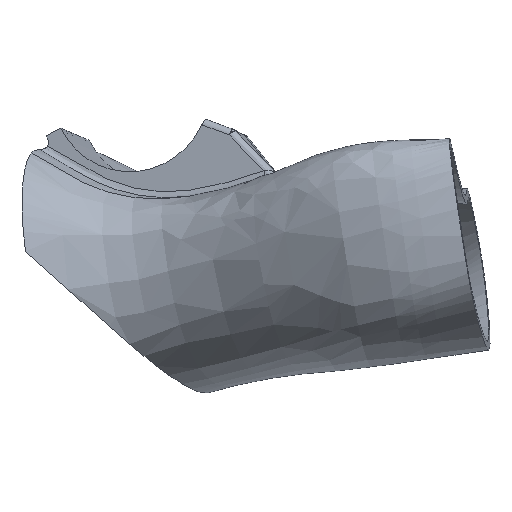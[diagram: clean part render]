
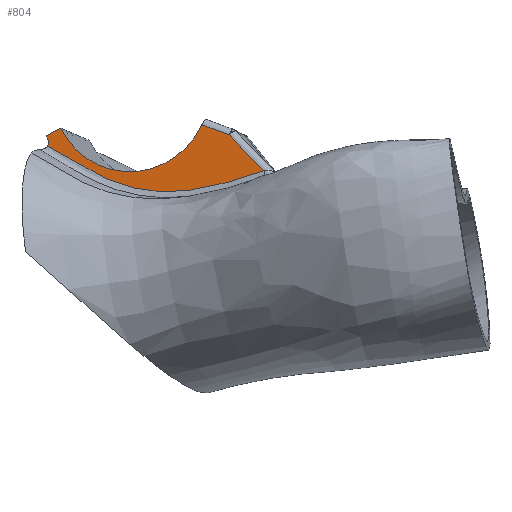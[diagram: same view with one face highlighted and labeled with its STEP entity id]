
A CAD part, top view. The second image highlights one B-rep face of the part: STEP entity #804.
In plain terms, the highlighted planar face has unit normal (-0.241, 0.103, 0.965).
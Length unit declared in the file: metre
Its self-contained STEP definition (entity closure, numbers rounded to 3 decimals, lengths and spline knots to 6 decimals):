
#26=CIRCLE('',#857,0.024);
#28=CIRCLE('',#861,0.029);
#45=LINE('',#2890,#93);
#71=LINE('',#4711,#119);
#93=VECTOR('',#898,1.);
#119=VECTOR('',#946,1.);
#142=PLANE('',#862);
#255=ORIENTED_EDGE('',*,*,#488,.T.);
#256=ORIENTED_EDGE('',*,*,#489,.T.);
#257=ORIENTED_EDGE('',*,*,#466,.F.);
#258=ORIENTED_EDGE('',*,*,#437,.T.);
#259=ORIENTED_EDGE('',*,*,#487,.F.);
#260=ORIENTED_EDGE('',*,*,#490,.T.);
#261=ORIENTED_EDGE('',*,*,#491,.T.);
#437=EDGE_CURVE('',#564,#563,#45,.T.);
#466=EDGE_CURVE('',#564,#588,#26,.T.);
#487=EDGE_CURVE('',#602,#563,#28,.T.);
#488=EDGE_CURVE('',#603,#604,#661,.T.);
#489=EDGE_CURVE('',#604,#588,#71,.F.);
#490=EDGE_CURVE('',#602,#605,#662,.T.);
#491=EDGE_CURVE('',#605,#603,#663,.T.);
#563=VERTEX_POINT('',#2889);
#564=VERTEX_POINT('',#2891);
#588=VERTEX_POINT('',#4641);
#602=VERTEX_POINT('',#4702);
#603=VERTEX_POINT('',#4709);
#604=VERTEX_POINT('',#4710);
#605=VERTEX_POINT('',#4716);
#661=B_SPLINE_CURVE_WITH_KNOTS('',3,(#4705,#4706,#4707,#4708),
 .UNSPECIFIED.,.F.,.F.,(4,4),(0.,0.015277),
 .UNSPECIFIED.);
#662=B_SPLINE_CURVE_WITH_KNOTS('',3,(#4712,#4713,#4714,#4715),
 .UNSPECIFIED.,.F.,.F.,(4,4),(0.,0.002161),.UNSPECIFIED.);
#663=B_SPLINE_CURVE_WITH_KNOTS('',3,(#4717,#4718,#4719,#4720,#4721,#4722,
#4723,#4724,#4725,#4726,#4727,#4728),.UNSPECIFIED.,.F.,.F.,(4,1,1,1,1,1,
1,1,1,4),(-0.00274,0.006002,0.014744,0.019114,
0.023485,0.032227,0.040969,0.04971,
0.058452,0.067193),.UNSPECIFIED.);
#704=EDGE_LOOP('',(#255,#256,#257,#258,#259,#260,#261));
#756=FACE_BOUND('',#704,.T.);
#804=ADVANCED_FACE('',(#756),#142,.F.);
#857=AXIS2_PLACEMENT_3D('',#4640,#919,#920);
#861=AXIS2_PLACEMENT_3D('',#4703,#942,#943);
#862=AXIS2_PLACEMENT_3D('',#4704,#944,#945);
#898=DIRECTION('',(-0.875,-0.453,-0.171));
#919=DIRECTION('',(-0.241,0.103,0.965));
#920=DIRECTION('',(0.97,0.,0.243));
#942=DIRECTION('',(0.241,-0.103,-0.965));
#943=DIRECTION('',(-0.97,0.,-0.243));
#944=DIRECTION('',(0.241,-0.103,-0.965));
#945=DIRECTION('',(0.97,0.026,0.24));
#946=DIRECTION('',(0.904,-0.338,0.262));
#2889=CARTESIAN_POINT('',(0.099856,-0.126,0.18507));
#2890=CARTESIAN_POINT('',(0.102043,-0.124867,0.185496));
#2891=CARTESIAN_POINT('',(0.104231,-0.123734,0.185923));
#4640=CARTESIAN_POINT('',(0.125229,-0.112857,0.190015));
#4641=CARTESIAN_POINT('',(0.146148,-0.122801,0.196303));
#4702=CARTESIAN_POINT('',(0.100391,-0.12707,0.185318));
#4703=CARTESIAN_POINT('',(0.125229,-0.112857,0.190015));
#4704=CARTESIAN_POINT('',(0.12548,-0.115378,0.190346));
#4705=CARTESIAN_POINT('',(0.164526,-0.136456,0.20235));
#4706=CARTESIAN_POINT('',(0.161093,-0.132902,0.201114));
#4707=CARTESIAN_POINT('',(0.157655,-0.129355,0.199877));
#4708=CARTESIAN_POINT('',(0.154214,-0.125812,0.198639));
#4709=CARTESIAN_POINT('',(0.164526,-0.136456,0.20235));
#4710=CARTESIAN_POINT('',(0.154214,-0.125812,0.198639));
#4711=CARTESIAN_POINT('',(0.146223,-0.122829,0.196324));
#4712=CARTESIAN_POINT('',(0.100391,-0.12707,0.185318));
#4713=CARTESIAN_POINT('',(0.100725,-0.127702,0.185468));
#4714=CARTESIAN_POINT('',(0.100683,-0.128514,0.185544));
#4715=CARTESIAN_POINT('',(0.100285,-0.129126,0.18551));
#4716=CARTESIAN_POINT('',(0.100285,-0.129126,0.18551));
#4717=CARTESIAN_POINT('',(0.100285,-0.129126,0.18551));
#4718=CARTESIAN_POINT('',(0.102687,-0.130609,0.186268));
#4719=CARTESIAN_POINT('',(0.107485,-0.133584,0.187784));
#4720=CARTESIAN_POINT('',(0.113633,-0.137011,0.189686));
#4721=CARTESIAN_POINT('',(0.118755,-0.139336,0.191214));
#4722=CARTESIAN_POINT('',(0.124114,-0.141246,0.192757));
#4723=CARTESIAN_POINT('',(0.131062,-0.142677,0.194646));
#4724=CARTESIAN_POINT('',(0.139672,-0.142798,0.196811));
#4725=CARTESIAN_POINT('',(0.148149,-0.141453,0.198788));
#4726=CARTESIAN_POINT('',(0.156383,-0.139192,0.200606));
#4727=CARTESIAN_POINT('',(0.161814,-0.137377,0.20177));
#4728=CARTESIAN_POINT('',(0.164526,-0.136456,0.20235));
